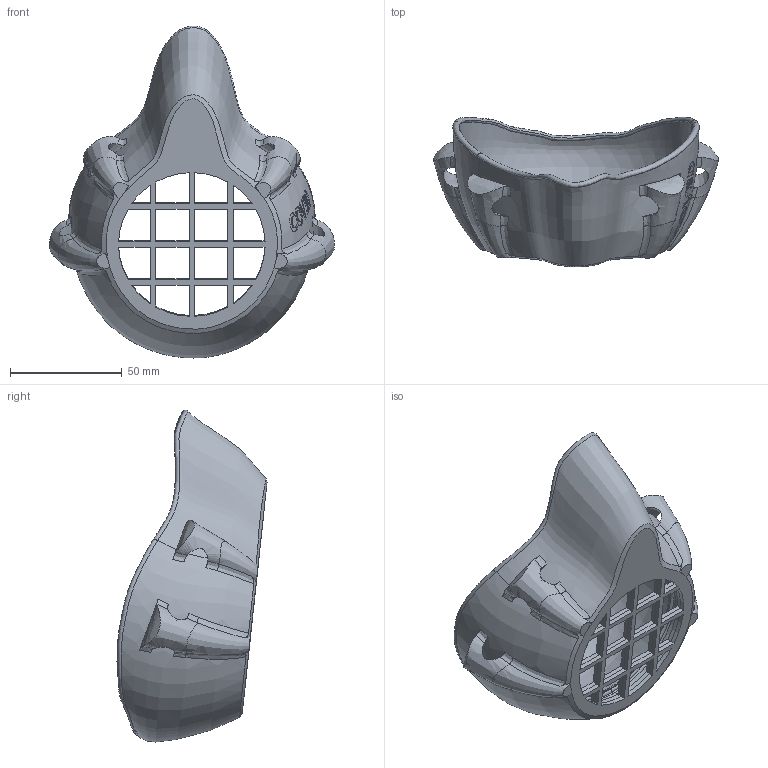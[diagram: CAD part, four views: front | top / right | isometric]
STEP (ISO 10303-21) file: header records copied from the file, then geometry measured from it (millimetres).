
FILE_DESCRIPTION(/* description */ (''),/* implementation_level */ '2;1');
FILE_NAME(/* name */ 'XL-MED~2',/* time_stamp */ '2020-04-10T21:49:48+03:00',/* author */ (''),/* organization */ (''),/* preprocessor_version */ 'ST-DEVELOPER v16.5',/* originating_system */ '',/* authorisation */ '');
FILE_SCHEMA (('AUTOMOTIVE_DESIGN'));
Length unit declared in the file: millimetre
Products named in the file (1): Document
Bounding box: 127.53 x 67.11 x 148.51 mm (x, y, z)
Volume: 66482.4 mm3; surface area: 53547.9 mm2
Topology: 1 solids, 1 shells, 312 faces, 797 edges, 489 vertices
Faces by surface type: bspline 209, plane 103
Entity records: 184217 total; most frequent: CARTESIAN_POINT 179229, ORIENTED_EDGE 1594, EDGE_CURVE 797, B_SPLINE_CURVE_WITH_KNOTS 625, VERTEX_POINT 489, EDGE_LOOP 354, ADVANCED_FACE 312, FACE_OUTER_BOUND 312
